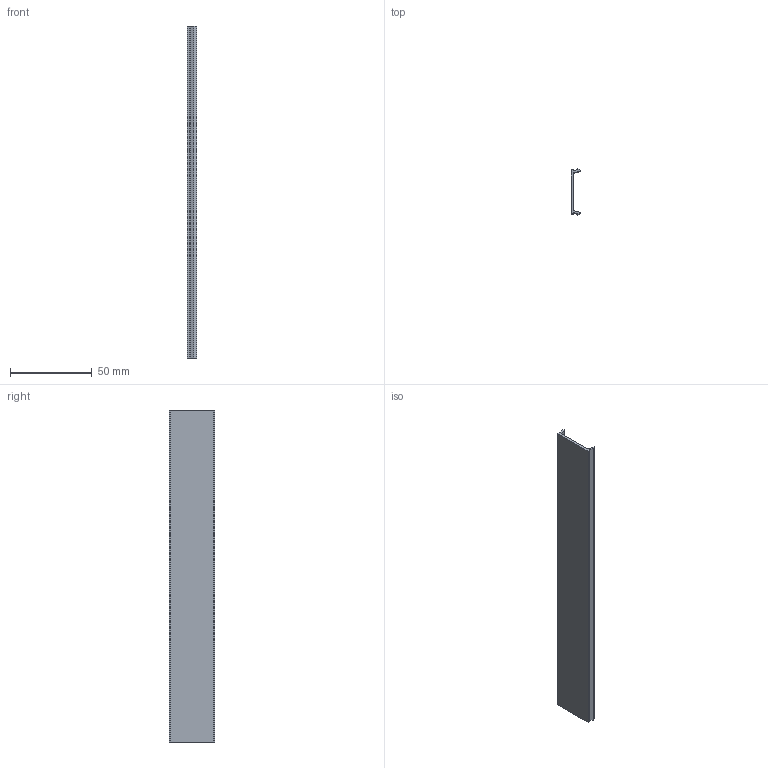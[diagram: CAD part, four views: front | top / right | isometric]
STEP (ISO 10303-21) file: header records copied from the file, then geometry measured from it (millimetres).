
FILE_DESCRIPTION((''),'2;1');
FILE_NAME('350315P','2023-03-13T',('jenni.wallner'),(''),'PRO/ENGINEER BY PARAMETRIC TECHNOLOGY CORPORATION, 2012420','PRO/ENGINEER BY PARAMETRIC TECHNOLOGY CORPORATION, 2012420','');
FILE_SCHEMA(('CONFIG_CONTROL_DESIGN'));
Length unit declared in the file: inch
Products named in the file (1): 350315P
Bounding box: 6.01 x 28.03 x 203.2 mm (x, y, z)
Volume: 10933.6 mm3; surface area: 15064 mm2
Topology: 1 solids, 1 shells, 22 faces, 60 edges, 40 vertices
Faces by surface type: plane 16, cylinder 6
Entity records: 736 total; most frequent: CARTESIAN_POINT 122, ORIENTED_EDGE 120, DIRECTION 116, EDGE_CURVE 60, VECTOR 48, LINE 48, VERTEX_POINT 40, AXIS2_PLACEMENT_3D 34
